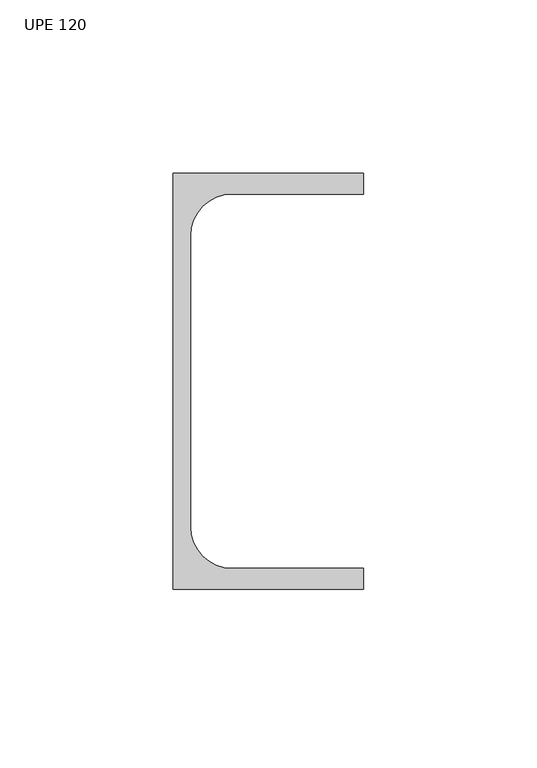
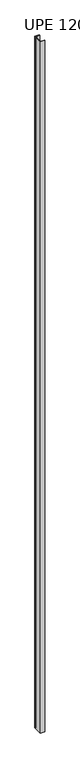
"""IFC4 building model written with IfcOpenShell, lengths in millimetres: column geometry, UPE - Canales de ala paralela - Pilar : UPE 120."""

from ifc_helpers import new_model, si_unit, point, frame_2d, origin, origin_with_axes, place, context, project, spatial, polyline, circle_curve, trimmed, segment, composite_curve, outline, extrude, source, transform, mapped, element, save


def upe_120_cf57cb14(model_context):
    return source(origin(), model_context, "Body", "SweptSolid", [
        extrude(outline(composite_curve([segment(polyline([(-19.8, -60.0), (-19.8, 60.0), (35.2, 60.0), (35.2, 54.0), (-2.8, 54.0)]), True, "CONTINUOUS"), segment(trimmed(circle_curve(frame_2d((-2.8, 42.0)), 12.0), [point((-2.8, 54.0))], [point((-14.8, 42.0))], True, "CARTESIAN"), True, "CONTINUOUS"), segment(polyline([(-14.8, 42.0), (-14.8, -42.0)]), True, "CONTINUOUS"), segment(trimmed(circle_curve(frame_2d((-2.8, -42.0)), 12.0), [point((-14.8, -42.0))], [point((-2.8, -54.0))], True, "CARTESIAN"), True, "CONTINUOUS"), segment(polyline([(-2.8, -54.0), (35.2, -54.0), (35.2, -60.0), (-19.8, -60.0)]), True, "CONTINUOUS")], self_intersect=False)), origin_with_axes(), (0.0, 0.0, 1.0), 9270.0),
    ])


if __name__ == "__main__":
    model = new_model("IFC4")
    model_context = context("Model", 3, world=origin())
    ifc_project = project(units=[si_unit("LENGTHUNIT", "METRE", prefix="MILLI")], contexts=[model_context])
    site = spatial("IfcSite", under=ifc_project)
    building = spatial("IfcBuilding", under=site)
    placement = place(None, origin())
    upe_120_shape = upe_120_cf57cb14(model_context)
    element("IfcColumn", 1, ObjectType="UPE - Canales de ala paralela - Pilar : UPE 120", at=placement, inside=building, context=model_context, shape_type="MappedRepresentation", body=[
        mapped(upe_120_shape, transform((0.0, 0.0, 0.0), x_axis=(1.0, 0.0, 0.0), y_axis=(0.0, 1.0, 0.0), z_axis=(0.0, 0.0, 1.0))),
    ])
    save(model, "model.ifc")
